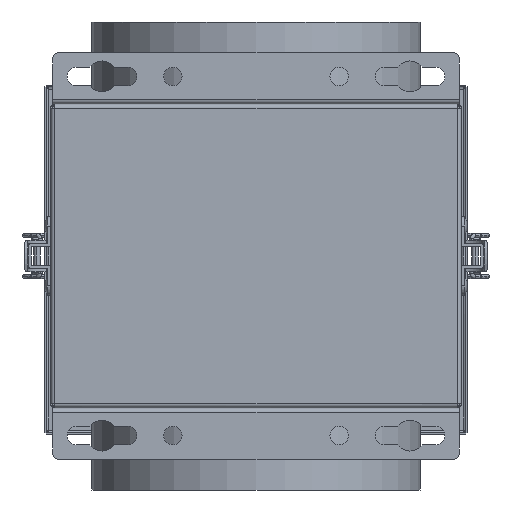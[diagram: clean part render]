
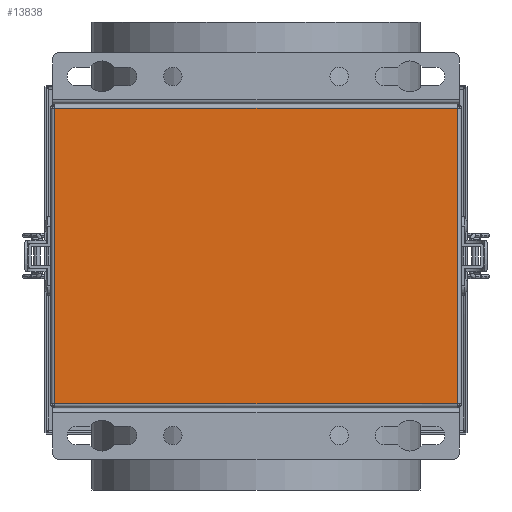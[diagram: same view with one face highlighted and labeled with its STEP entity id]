
A CAD part, front view. The second image highlights one B-rep face of the part: STEP entity #13838.
In plain terms, the highlighted planar face has unit normal (0, -1, 0).
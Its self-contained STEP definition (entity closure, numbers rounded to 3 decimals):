
#1476 = EDGE_CURVE ( 'NONE', #4261, #11106, #15561, .T. ) ;
#2362 = DIRECTION ( 'NONE',  ( 0., 0., 1. ) ) ;
#2461 = AXIS2_PLACEMENT_3D ( 'NONE', #5454, #2469, #13194 ) ;
#2469 = DIRECTION ( 'NONE',  ( 0., -1., 0. ) ) ;
#3822 = EDGE_CURVE ( 'NONE', #8428, #4261, #9394, .T. ) ;
#4261 = VERTEX_POINT ( 'NONE', #5116 ) ;
#4316 = DIRECTION ( 'NONE',  ( 1., 0., 0. ) ) ;
#4389 = CARTESIAN_POINT ( 'NONE',  ( -98., 0., -72. ) ) ;
#4649 = EDGE_CURVE ( 'NONE', #11106, #7095, #16295, .T. ) ;
#5116 = CARTESIAN_POINT ( 'NONE',  ( 98., 0., -72. ) ) ;
#5454 = CARTESIAN_POINT ( 'NONE',  ( 100., 0., 74. ) ) ;
#5676 = ORIENTED_EDGE ( 'NONE', *, *, #4649, .T. ) ;
#5987 = DIRECTION ( 'NONE',  ( 0., 0., -1. ) ) ;
#7095 = VERTEX_POINT ( 'NONE', #7878 ) ;
#7150 = ORIENTED_EDGE ( 'NONE', *, *, #1476, .T. ) ;
#7878 = CARTESIAN_POINT ( 'NONE',  ( -98., 0., 72. ) ) ;
#8428 = VERTEX_POINT ( 'NONE', #10525 ) ;
#8577 = EDGE_LOOP ( 'NONE', ( #11577, #13328, #7150, #5676 ) ) ;
#9394 = LINE ( 'NONE', #4389, #12954 ) ;
#10117 = PLANE ( 'NONE',  #2461 ) ;
#10525 = CARTESIAN_POINT ( 'NONE',  ( -98., 0., -72. ) ) ;
#11106 = VERTEX_POINT ( 'NONE', #18648 ) ;
#11436 = VECTOR ( 'NONE', #2362, 1000. ) ;
#11577 = ORIENTED_EDGE ( 'NONE', *, *, #12930, .T. ) ;
#11596 = VECTOR ( 'NONE', #5987, 1000. ) ;
#12171 = CARTESIAN_POINT ( 'NONE',  ( 98., 0., 72. ) ) ;
#12242 = VECTOR ( 'NONE', #12252, 1000. ) ;
#12252 = DIRECTION ( 'NONE',  ( -1., 0., 0. ) ) ;
#12930 = EDGE_CURVE ( 'NONE', #7095, #8428, #19764, .T. ) ;
#12954 = VECTOR ( 'NONE', #4316, 1000. ) ;
#13194 = DIRECTION ( 'NONE',  ( 0., 0., -1. ) ) ;
#13328 = ORIENTED_EDGE ( 'NONE', *, *, #3822, .T. ) ;
#13641 = CARTESIAN_POINT ( 'NONE',  ( -98., 0., 74. ) ) ;
#13838 = ADVANCED_FACE ( 'NONE', ( #17105 ), #10117, .T. ) ;
#15561 = LINE ( 'NONE', #19169, #11436 ) ;
#16295 = LINE ( 'NONE', #12171, #12242 ) ;
#17105 = FACE_OUTER_BOUND ( 'NONE', #8577, .T. ) ;
#18648 = CARTESIAN_POINT ( 'NONE',  ( 98., 0., 72. ) ) ;
#19169 = CARTESIAN_POINT ( 'NONE',  ( 98., 0., -74. ) ) ;
#19764 = LINE ( 'NONE', #13641, #11596 ) ;
